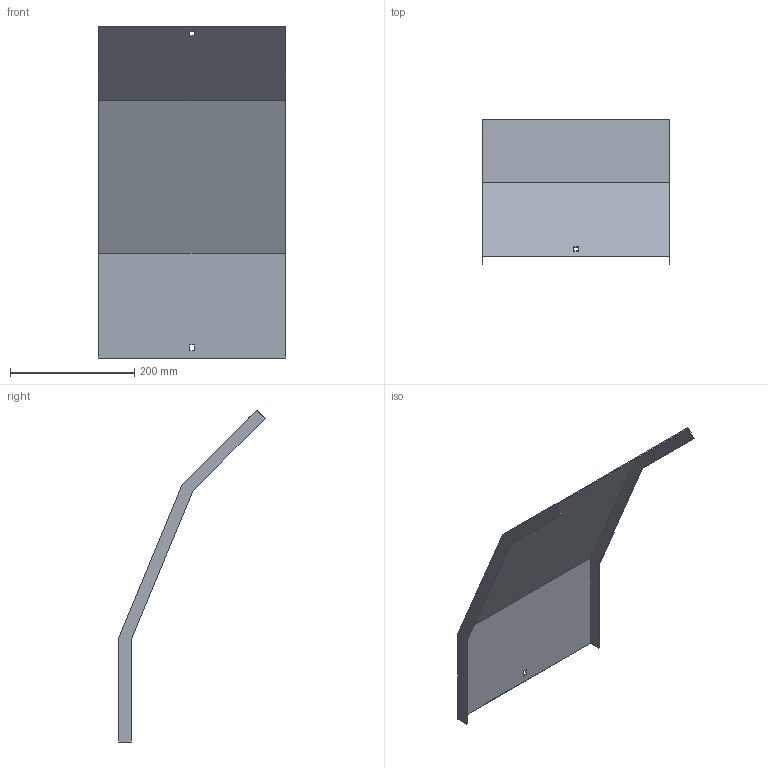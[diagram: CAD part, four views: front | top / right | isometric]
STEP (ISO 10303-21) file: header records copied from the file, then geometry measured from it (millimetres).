
FILE_DESCRIPTION (( 'STEP AP214' ), '1' );
FILE_NAME ('A2_34N3C300.step', '2025-02-21T10:34:15', ( '' ), ( '' ), 'SwSTEP 2.0', 'SolidWorks 2023', '' );
FILE_SCHEMA (( 'AUTOMOTIVE_DESIGN' ));
Length unit declared in the file: millimetre
Products named in the file (1): A2_34N3C300
Bounding box: 303 x 235.79 x 535.1 mm (x, y, z)
Volume: 307584.2 mm3; surface area: 412994.1 mm2
Topology: 1 solids, 1 shells, 26 faces, 72 edges, 48 vertices
Faces by surface type: plane 26
Entity records: 847 total; most frequent: CARTESIAN_POINT 147, ORIENTED_EDGE 144, DIRECTION 126, VECTOR 72, EDGE_CURVE 72, LINE 72, VERTEX_POINT 48, EDGE_LOOP 30
